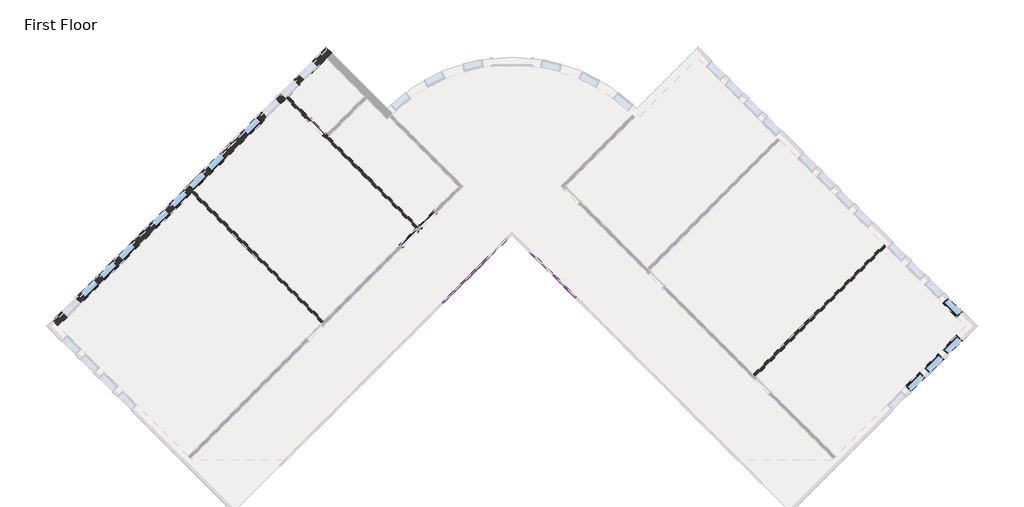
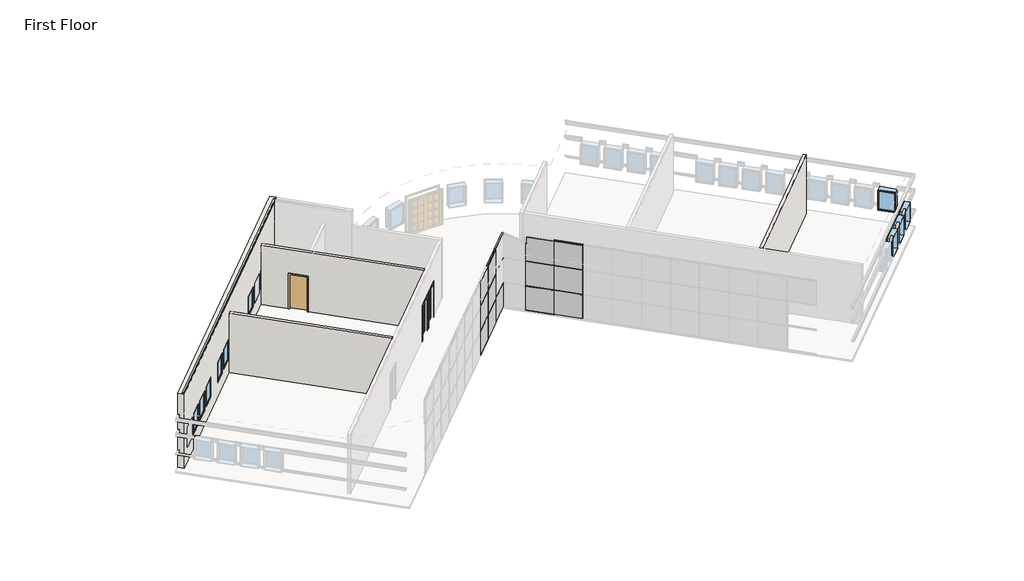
# One storey, part 3 of 5: 21 members, 13 plates, 12 windows, 4 walls, 3 doors.
"""IFC4 building model written with IfcOpenShell, lengths in millimetres."""

from ifc_helpers import new_model, si_unit, origin, origin_with_axes, place, context, project, spatial, polyline, outline, extrude, faceted_brep, transform, mapped, element, save
from components import door_f9494b7c, door_b81abb0e, door_5f5b55da, member_6121af53, member_155beb68, member_f5090587, member_42be4715, member_b8a5b5c0, system_panel_glazed_f8555db4, system_panel_glazed_da345f4e, system_panel_glazed_f1e4c5b0, system_panel_solid_2f1037e2, system_panel_solid_f673cd79, window_15c49d37, window_0e2fc6ce

model = new_model("IFC4")

# Units and contexts
model_context = context("Model", 3, world=origin())
ifc_project = project(units=[si_unit("LENGTHUNIT", "METRE", prefix="MILLI")], contexts=[model_context])

# Site, building, storey
site = spatial("IfcSite", under=ifc_project)
building = spatial("IfcBuilding", under=site)
storey = spatial("IfcBuildingStorey", under=building, Name="First Floor", Elevation=0.0)

# Doors
placement = place(None, origin())
door_shape = door_f9494b7c(model_context)
element("IfcDoor", 1, ObjectType="Single-Flush : 36\" x 84\"", at=placement, inside=storey, context=model_context, shape_type="MappedRepresentation", body=[
    mapped(door_shape, transform((-11920.1265343, 7875.9588464, 0.0), x_axis=(0.7071067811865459, -0.7071067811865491, 0.0), y_axis=(0.7071067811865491, 0.7071067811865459, 0.0), z_axis=(0.0, 0.0, 1.0))),
])
door_2_shape = door_b81abb0e(model_context)
element("IfcDoor", 2, ObjectType="Single-Glass 1 : 36\" x 84\"", at=placement, inside=storey, context=model_context, shape_type="MappedRepresentation", body=[
    mapped(door_2_shape, transform((-7643.2795567, 2737.0072811, 0.0), x_axis=(0.7071067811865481, 0.7071067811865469, 0.0), y_axis=(-0.7071067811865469, 0.7071067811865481, 0.0), z_axis=(0.0, 0.0, 1.0))),
])
door_3_shape = door_5f5b55da(model_context)
element("IfcDoor", 3, ObjectType="Single-Glass 1 : 36\" x 84\"", at=placement, inside=storey, context=model_context, shape_type="MappedRepresentation", body=[
    mapped(door_3_shape, transform((-6781.1749691, 3599.1118687, 0.0), x_axis=(-0.7071067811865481, -0.7071067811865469, 0.0), y_axis=(0.7071067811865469, -0.7071067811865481, 0.0), z_axis=(0.0, 0.0, 1.0))),
])

# Members
member_shape = member_6121af53(model_context)
element("IfcMember", 4, ObjectType="Rectangular Mullion : 1.5\" x 2.5\" Rectangular", at=placement, inside=storey, context=model_context, shape_type="MappedRepresentation", body=[
    mapped(member_shape, transform((-5009.8194492, 810.7423431, 4572.0), x_axis=(0.0, 0.0, 1.0), y_axis=(-0.7071067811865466, 0.7071067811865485, 0.0), z_axis=(-0.7071067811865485, -0.7071067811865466, 0.0))),
])
element("IfcMember", 5, ObjectType="Rectangular Mullion : 1.5\" x 2.5\" Rectangular", at=placement, inside=storey, context=model_context, shape_type="MappedRepresentation", body=[
    mapped(member_shape, transform((-948.4986184, 1033.0036821, 4572.0), x_axis=(0.0, 0.0, 1.0), y_axis=(0.7071067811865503, 0.7071067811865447, 0.0), z_axis=(-0.7071067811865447, 0.7071067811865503, 0.0))),
])
member_2_shape = member_155beb68(model_context)
element("IfcMember", 6, ObjectType="Rectangular Mullion : 1.5\" x 2.5\" Rectangular", at=placement, inside=storey, context=model_context, shape_type="MappedRepresentation", body=[
    mapped(member_2_shape, transform((-3945.6590988, 1874.9026935, 1524.0), x_axis=(-0.7071067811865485, -0.7071067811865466, 0.0), y_axis=(-0.7071067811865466, 0.7071067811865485, 0.0), z_axis=(0.0, 0.0, -1.0))),
])
element("IfcMember", 7, ObjectType="Rectangular Mullion : 1.5\" x 2.5\" Rectangular", at=placement, inside=storey, context=model_context, shape_type="MappedRepresentation", body=[
    mapped(member_2_shape, transform((-5023.2898334, 797.271959, 1524.0), x_axis=(-0.7071067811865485, -0.7071067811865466, 0.0), y_axis=(-0.7071067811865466, 0.7071067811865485, 0.0), z_axis=(0.0, 0.0, -1.0))),
])
element("IfcMember", 8, ObjectType="Rectangular Mullion : 1.5\" x 2.5\" Rectangular", at=placement, inside=storey, context=model_context, shape_type="MappedRepresentation", body=[
    mapped(member_2_shape, transform((-961.9690026, 1046.4740663, 1524.0), x_axis=(-0.7071067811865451, 0.70710678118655, 0.0), y_axis=(0.70710678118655, 0.7071067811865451, 0.0), z_axis=(0.0, 0.0, -1.0))),
])
element("IfcMember", 9, ObjectType="Rectangular Mullion : 1.5\" x 2.5\" Rectangular", at=placement, inside=storey, context=model_context, shape_type="MappedRepresentation", body=[
    mapped(member_2_shape, transform((-3945.6590988, 1874.9026935, 3048.0), x_axis=(-0.7071067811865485, -0.7071067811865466, 0.0), y_axis=(-0.7071067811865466, 0.7071067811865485, 0.0), z_axis=(0.0, 0.0, -1.0))),
])
element("IfcMember", 10, ObjectType="Rectangular Mullion : 1.5\" x 2.5\" Rectangular", at=placement, inside=storey, context=model_context, shape_type="MappedRepresentation", body=[
    mapped(member_2_shape, transform((-5023.2898334, 797.271959, 3048.0), x_axis=(-0.7071067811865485, -0.7071067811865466, 0.0), y_axis=(-0.7071067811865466, 0.7071067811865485, 0.0), z_axis=(0.0, 0.0, -1.0))),
])
element("IfcMember", 11, ObjectType="Rectangular Mullion : 1.5\" x 2.5\" Rectangular", at=placement, inside=storey, context=model_context, shape_type="MappedRepresentation", body=[
    mapped(member_2_shape, transform((-961.9690026, 1046.4740663, 3048.0), x_axis=(-0.7071067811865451, 0.70710678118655, 0.0), y_axis=(0.70710678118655, 0.7071067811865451, 0.0), z_axis=(0.0, 0.0, -1.0))),
])
element("IfcMember", 12, ObjectType="Rectangular Mullion : 1.5\" x 2.5\" Rectangular", at=placement, inside=storey, context=model_context, shape_type="MappedRepresentation", body=[
    mapped(member_2_shape, transform((-3945.6590988, 1874.9026935, 0.0), x_axis=(-0.7071067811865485, -0.7071067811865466, 0.0), y_axis=(-0.7071067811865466, 0.7071067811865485, 0.0), z_axis=(0.0, 0.0, -1.0))),
])
element("IfcMember", 13, ObjectType="Rectangular Mullion : 1.5\" x 2.5\" Rectangular", at=placement, inside=storey, context=model_context, shape_type="MappedRepresentation", body=[
    mapped(member_2_shape, transform((-5023.2898334, 797.271959, 0.0), x_axis=(-0.7071067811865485, -0.7071067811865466, 0.0), y_axis=(-0.7071067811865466, 0.7071067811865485, 0.0), z_axis=(0.0, 0.0, -1.0))),
])
element("IfcMember", 14, ObjectType="Rectangular Mullion : 1.5\" x 2.5\" Rectangular", at=placement, inside=storey, context=model_context, shape_type="MappedRepresentation", body=[
    mapped(member_2_shape, transform((-961.9690026, 1046.4740663, 0.0), x_axis=(-0.7071067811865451, 0.70710678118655, 0.0), y_axis=(0.70710678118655, 0.7071067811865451, 0.0), z_axis=(0.0, 0.0, -1.0))),
])
member_3_shape = member_f5090587(model_context)
element("IfcMember", 15, ObjectType="Rectangular Mullion : 1.5\" x 2.5\" Rectangular", at=placement, inside=storey, context=model_context, shape_type="MappedRepresentation", body=[
    mapped(member_3_shape, transform((-3932.1887147, 1888.3730777, 3048.0), x_axis=(0.0, 0.0, 1.0), y_axis=(-0.7071067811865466, 0.7071067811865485, 0.0), z_axis=(-0.7071067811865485, -0.7071067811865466, 0.0))),
])
element("IfcMember", 16, ObjectType="Rectangular Mullion : 1.5\" x 2.5\" Rectangular", at=placement, inside=storey, context=model_context, shape_type="MappedRepresentation", body=[
    mapped(member_3_shape, transform((-3932.1887147, 1888.3730777, 1524.0), x_axis=(0.0, 0.0, 1.0), y_axis=(-0.7071067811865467, 0.7071067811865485, 0.0), z_axis=(-0.7071067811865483, -0.7071067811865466, 0.0))),
])
member_4_shape = member_42be4715(model_context)
element("IfcMember", 17, ObjectType="Rectangular Mullion : 1.5\" x 2.5\" Rectangular", at=placement, inside=storey, context=model_context, shape_type="MappedRepresentation", body=[
    mapped(member_4_shape, transform((-5009.8194492, 810.7423431, 3048.0), x_axis=(0.0, 0.0, 1.0), y_axis=(-0.7071067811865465, 0.7071067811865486, 0.0), z_axis=(-0.7071067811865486, -0.7071067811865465, 0.0))),
])
element("IfcMember", 18, ObjectType="Rectangular Mullion : 1.5\" x 2.5\" Rectangular", at=placement, inside=storey, context=model_context, shape_type="MappedRepresentation", body=[
    mapped(member_4_shape, transform((-5009.8194492, 810.7423431, 1524.0), x_axis=(0.0, 0.0, 1.0), y_axis=(-0.7071067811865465, 0.7071067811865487, 0.0), z_axis=(-0.7071067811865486, -0.7071067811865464, 0.0))),
])
element("IfcMember", 19, ObjectType="Rectangular Mullion : 1.5\" x 2.5\" Rectangular", at=placement, inside=storey, context=model_context, shape_type="MappedRepresentation", body=[
    mapped(member_4_shape, transform((-948.4986184, 1033.0036821, 3048.0), x_axis=(0.0, 0.0, 1.0), y_axis=(0.7071067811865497, 0.7071067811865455, 0.0), z_axis=(-0.7071067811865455, 0.7071067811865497, 0.0))),
])
element("IfcMember", 20, ObjectType="Rectangular Mullion : 1.5\" x 2.5\" Rectangular", at=placement, inside=storey, context=model_context, shape_type="MappedRepresentation", body=[
    mapped(member_4_shape, transform((-948.4986184, 1033.0036821, 1524.0), x_axis=(0.0, 0.0, 1.0), y_axis=(0.7071067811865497, 0.7071067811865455, 0.0), z_axis=(-0.7071067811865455, 0.7071067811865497, 0.0))),
])
element("IfcMember", 21, ObjectType="Rectangular Mullion : 1.5\" x 2.5\" Rectangular", at=placement, inside=storey, context=model_context, shape_type="MappedRepresentation", body=[
    mapped(member_shape, transform((-3959.129483, 1861.4323093, 0.0), x_axis=(0.0, 0.0, -1.0), y_axis=(-0.7071067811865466, 0.7071067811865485, 0.0), z_axis=(0.7071067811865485, 0.7071067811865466, 0.0))),
])
element("IfcMember", 22, ObjectType="Rectangular Mullion : 1.5\" x 2.5\" Rectangular", at=placement, inside=storey, context=model_context, shape_type="MappedRepresentation", body=[
    mapped(member_shape, transform((-5036.7602175, 783.8015748, 0.0), x_axis=(0.0, 0.0, -1.0), y_axis=(-0.7071067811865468, 0.7071067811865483, 0.0), z_axis=(0.7071067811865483, 0.7071067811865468, 0.0))),
])
element("IfcMember", 23, ObjectType="Rectangular Mullion : 1.5\" x 2.5\" Rectangular", at=placement, inside=storey, context=model_context, shape_type="MappedRepresentation", body=[
    mapped(member_shape, transform((-975.4393868, 1059.9444505, 0.0), x_axis=(0.0, 0.0, -1.0), y_axis=(0.7071067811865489, 0.7071067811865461, 0.0), z_axis=(0.7071067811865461, -0.7071067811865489, 0.0))),
])
member_5_shape = member_b8a5b5c0(model_context)
element("IfcMember", 24, ObjectType="Rectangular Mullion : 1.5\" x 2.5\" Rectangular", at=placement, inside=storey, context=model_context, shape_type="MappedRepresentation", body=[
    mapped(member_5_shape, transform((-3932.1887147, 1888.3730777, 4572.0), x_axis=(0.0, 0.0, 1.0), y_axis=(-0.7071067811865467, 0.7071067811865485, 0.0), z_axis=(-0.7071067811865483, -0.7071067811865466, 0.0))),
])

# Plates
system_panel_glazed_shape = system_panel_glazed_f8555db4(model_context)
element("IfcPlate", 25, ObjectType="System Panel : Glazed", at=placement, inside=storey, context=model_context, shape_type="MappedRepresentation", body=[
    mapped(system_panel_glazed_shape, transform((-3413.5789237, 2406.9828687, 38.1), x_axis=(-0.7071067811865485, -0.7071067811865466, 0.0), y_axis=(0.7071067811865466, -0.7071067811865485, 0.0), z_axis=(0.0, 0.0, 1.0))),
])
system_panel_glazed_2_shape = system_panel_glazed_da345f4e(model_context)
element("IfcPlate", 26, ObjectType="System Panel : Glazed", at=placement, inside=storey, context=model_context, shape_type="MappedRepresentation", body=[
    mapped(system_panel_glazed_2_shape, transform((-423.1536353, 507.6586991, 38.1), x_axis=(-0.7071067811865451, 0.70710678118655, 0.0), y_axis=(-0.70710678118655, -0.7071067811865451, 0.0), z_axis=(0.0, 0.0, 1.0))),
])
element("IfcPlate", 27, ObjectType="System Panel : Glazed", at=placement, inside=storey, context=model_context, shape_type="MappedRepresentation", body=[
    mapped(system_panel_glazed_2_shape, transform((-4484.4744661, 1336.0873262, 38.1), x_axis=(-0.7071067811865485, -0.7071067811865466, 0.0), y_axis=(0.7071067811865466, -0.7071067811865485, 0.0), z_axis=(0.0, 0.0, 1.0))),
])
element("IfcPlate", 28, ObjectType="System Panel : Glazed", at=placement, inside=storey, context=model_context, shape_type="MappedRepresentation", body=[
    mapped(system_panel_glazed_2_shape, transform((-5562.1052006, 258.4565917, 38.1), x_axis=(-0.7071067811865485, -0.7071067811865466, 0.0), y_axis=(0.7071067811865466, -0.7071067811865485, 0.0), z_axis=(0.0, 0.0, 1.0))),
])
element("IfcPlate", 29, ObjectType="System Panel : Glazed", at=placement, inside=storey, context=model_context, shape_type="MappedRepresentation", body=[
    mapped(system_panel_glazed_2_shape, transform((-1500.7843699, 1585.2894336, 38.1), x_axis=(-0.7071067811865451, 0.70710678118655, 0.0), y_axis=(-0.70710678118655, -0.7071067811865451, 0.0), z_axis=(0.0, 0.0, 1.0))),
])
system_panel_glazed_3_shape = system_panel_glazed_f1e4c5b0(model_context)
element("IfcPlate", 30, ObjectType="System Panel : Glazed", at=placement, inside=storey, context=model_context, shape_type="MappedRepresentation", body=[
    mapped(system_panel_glazed_3_shape, transform((-423.1536353, 507.6586991, 1543.05), x_axis=(-0.7071067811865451, 0.70710678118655, 0.0), y_axis=(-0.70710678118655, -0.7071067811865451, 0.0), z_axis=(0.0, 0.0, 1.0))),
])
element("IfcPlate", 31, ObjectType="System Panel : Glazed", at=placement, inside=storey, context=model_context, shape_type="MappedRepresentation", body=[
    mapped(system_panel_glazed_3_shape, transform((-4484.4744661, 1336.0873262, 1543.05), x_axis=(-0.7071067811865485, -0.7071067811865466, 0.0), y_axis=(0.7071067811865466, -0.7071067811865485, 0.0), z_axis=(0.0, 0.0, 1.0))),
])
element("IfcPlate", 32, ObjectType="System Panel : Glazed", at=placement, inside=storey, context=model_context, shape_type="MappedRepresentation", body=[
    mapped(system_panel_glazed_3_shape, transform((-5562.1052006, 258.4565917, 1543.05), x_axis=(-0.7071067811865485, -0.7071067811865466, 0.0), y_axis=(0.7071067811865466, -0.7071067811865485, 0.0), z_axis=(0.0, 0.0, 1.0))),
])
element("IfcPlate", 33, ObjectType="System Panel : Glazed", at=placement, inside=storey, context=model_context, shape_type="MappedRepresentation", body=[
    mapped(system_panel_glazed_3_shape, transform((-1500.7843699, 1585.2894336, 1543.05), x_axis=(-0.7071067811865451, 0.70710678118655, 0.0), y_axis=(-0.70710678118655, -0.7071067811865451, 0.0), z_axis=(0.0, 0.0, 1.0))),
])
system_panel_solid_shape = system_panel_solid_2f1037e2(model_context)
element("IfcPlate", 34, ObjectType="System Panel : Solid", at=placement, inside=storey, context=model_context, shape_type="MappedRepresentation", body=[
    mapped(system_panel_solid_shape, transform((-423.1536353, 507.6586991, 3067.05), x_axis=(-0.7071067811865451, 0.70710678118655, 0.0), y_axis=(-0.70710678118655, -0.7071067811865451, 0.0), z_axis=(0.0, 0.0, 1.0))),
])
element("IfcPlate", 35, ObjectType="System Panel : Solid", at=placement, inside=storey, context=model_context, shape_type="MappedRepresentation", body=[
    mapped(system_panel_solid_shape, transform((-4484.4744661, 1336.0873262, 3067.05), x_axis=(-0.7071067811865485, -0.7071067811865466, 0.0), y_axis=(0.7071067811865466, -0.7071067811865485, 0.0), z_axis=(0.0, 0.0, 1.0))),
])
element("IfcPlate", 36, ObjectType="System Panel : Solid", at=placement, inside=storey, context=model_context, shape_type="MappedRepresentation", body=[
    mapped(system_panel_solid_shape, transform((-5562.1052006, 258.4565917, 3067.05), x_axis=(-0.7071067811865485, -0.7071067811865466, 0.0), y_axis=(0.7071067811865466, -0.7071067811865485, 0.0), z_axis=(0.0, 0.0, 1.0))),
])
system_panel_solid_2_shape = system_panel_solid_f673cd79(model_context)
element("IfcPlate", 37, ObjectType="System Panel : Solid", at=placement, inside=storey, context=model_context, shape_type="MappedRepresentation", body=[
    mapped(system_panel_solid_2_shape, transform((-1500.7843699, 1585.2894336, 3067.05), x_axis=(-0.7071067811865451, 0.70710678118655, 0.0), y_axis=(-0.70710678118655, -0.7071067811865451, 0.0), z_axis=(0.0, 0.0, 1.0))),
])

# Walls
element("IfcWall", 38, ObjectType="Exterior - Split Face and CMU on Mtl. Stud", at=placement, inside=storey, context=model_context, shape_type="Brep", body=[
    faceted_brep([(-23922.2388402, -1357.9895101, 0.0), (-17743.7048466, 4820.5444835, 0.0), (-17633.6967091, 4930.552621, 0.0), (-13359.2125777, 9205.0367523, 0.0), (-13249.2044403, 9315.0448898, 0.0), (-11489.0742405, 11075.1750895, 0.0), (-11239.8721332, 11324.3771969, 0.0), (-11239.8721332, 11324.3771969, 1016.0), (-11304.9789901, 11259.27034, 1016.0), (-11304.9789901, 11259.27034, 1085.85), (-11239.8721332, 11324.3771969, 1085.85), (-11239.8721332, 11324.3771969, 2133.6), (-11304.9789901, 11259.27034, 2133.6), (-11304.9789901, 11259.27034, 2336.8), (-11239.8721332, 11324.3771969, 2336.8), (-11239.8721332, 11324.3771969, 3048.0), (-11304.9789901, 11259.27034, 3048.0), (-11304.9789901, 11259.27034, 3251.2), (-11239.8721332, 11324.3771969, 3251.2), (-11239.8721332, 11324.3771969, 4572.0), (-11489.0742405, 11075.1750895, 4572.0), (-23922.2388402, -1357.9895101, 4572.0), (-23508.0245266, -943.7751965, 914.4), (-23508.0245266, -943.7751965, 2133.6), (-22861.4460859, -297.1967558, 2133.6), (-22861.4460859, -297.1967558, 914.4), (-22645.9199389, -81.6706089, 914.4), (-22645.9199389, -81.6706089, 2133.6), (-21999.3414982, 564.9078318, 2133.6), (-21999.3414982, 564.9078318, 914.4), (-20921.7107637, 1642.5385664, 914.4), (-20921.7107637, 1642.5385664, 2133.6), (-20275.132323, 2289.1170071, 2133.6), (-20275.132323, 2289.1170071, 914.4), (-21783.8153513, 780.4339787, 914.4), (-21783.8153513, 780.4339787, 2133.6), (-21137.2369106, 1427.0124195, 2133.6), (-21137.2369106, 1427.0124195, 914.4), (-11869.3770291, 10694.8723009, 2133.6), (-11869.3770291, 10694.8723009, 914.4), (-12515.9554698, 10048.2938602, 914.4), (-12515.9554698, 10048.2938602, 2133.6), (-12731.4816167, 9832.7677133, 2133.6), (-12731.4816167, 9832.7677133, 914.4), (-13378.0600575, 9186.1892726, 914.4), (-13378.0600575, 9186.1892726, 2133.6), (-13593.5862044, 8970.6631257, 2133.6), (-13593.5862044, 8970.6631257, 914.4), (-14240.1646451, 8324.084685, 914.4), (-14240.1646451, 8324.084685, 2133.6), (-14455.690792, 8108.5585381, 2133.6), (-14455.690792, 8108.5585381, 914.4), (-15102.2692327, 7461.9800974, 914.4), (-15102.2692327, 7461.9800974, 2133.6), (-19359.6176228, 3204.6317073, 914.4), (-19359.6176228, 3204.6317073, 2133.6), (-18713.0391821, 3851.210148, 2133.6), (-18713.0391821, 3851.210148, 914.4), (-18497.5130352, 4066.7362949, 914.4), (-18497.5130352, 4066.7362949, 2133.6), (-17850.9345944, 4713.3147356, 2133.6), (-17850.9345944, 4713.3147356, 914.4), (-17635.4084475, 4928.8408825, 914.4), (-17635.4084475, 4928.8408825, 2133.6), (-16988.8300068, 5575.4193232, 2133.6), (-16988.8300068, 5575.4193232, 914.4), (-16773.3038599, 5790.9454701, 914.4), (-16773.3038599, 5790.9454701, 2133.6), (-16126.7254192, 6437.5239109, 2133.6), (-16126.7254192, 6437.5239109, 914.4), (-11489.0742405, 11573.5793042, 0.0), (-24171.4409475, -1108.7874027, 0.0), (-24171.4409475, -1108.7874027, 1016.0), (-23757.2266339, -694.5730891, 1016.0), (-23757.2266339, -694.5730891, 914.4), (-23110.6481932, -47.9946484, 914.4), (-23110.6481932, -47.9946484, 1016.0), (-22895.1220463, 167.5314985, 1016.0), (-22895.1220463, 167.5314985, 914.4), (-22248.5436056, 814.1099392, 914.4), (-22248.5436056, 814.1099392, 1016.0), (-22033.0174587, 1029.6360861, 1016.0), (-22033.0174587, 1029.6360861, 914.4), (-21386.439018, 1676.2145268, 914.4), (-21386.439018, 1676.2145268, 1016.0), (-21170.9128711, 1891.7406737, 1016.0), (-21170.9128711, 1891.7406737, 914.4), (-20524.3344303, 2538.3191144, 914.4), (-20524.3344303, 2538.3191144, 1016.0), (-19608.8197301, 3453.8338146, 1016.0), (-19608.8197301, 3453.8338146, 914.4), (-18962.2412894, 4100.4122553, 914.4), (-18962.2412894, 4100.4122553, 1016.0), (-18746.7151425, 4315.9384023, 1016.0), (-18746.7151425, 4315.9384023, 914.4), (-18100.1367018, 4962.516843, 914.4), (-18100.1367018, 4962.516843, 1016.0), (-17884.6105549, 5178.0429899, 1016.0), (-17884.6105549, 5178.0429899, 914.4), (-17238.0321142, 5824.6214306, 914.4), (-17238.0321142, 5824.6214306, 1016.0), (-17022.5059673, 6040.1475775, 1016.0), (-17022.5059673, 6040.1475775, 914.4), (-16375.9275266, 6686.7260182, 914.4), (-16375.9275266, 6686.7260182, 1016.0), (-15351.4713401, 7711.1822047, 1016.0), (-15351.4713401, 7711.1822047, 914.4), (-14704.8928993, 8357.7606454, 914.4), (-14704.8928993, 8357.7606454, 1016.0), (-14489.3667524, 8573.2867923, 1016.0), (-14489.3667524, 8573.2867923, 914.4), (-13842.7883117, 9219.8652331, 914.4), (-13842.7883117, 9219.8652331, 1016.0), (-13627.2621648, 9435.39138, 1016.0), (-13627.2621648, 9435.39138, 914.4), (-12980.6837241, 10081.9698207, 914.4), (-12980.6837241, 10081.9698207, 1016.0), (-12765.1575772, 10297.4959676, 1016.0), (-12765.1575772, 10297.4959676, 914.4), (-12118.5791365, 10944.0744083, 914.4), (-12118.5791365, 10944.0744083, 1016.0), (-11489.0742405, 11573.5793042, 1016.0), (-23110.6481932, -47.9946484, 2133.6), (-23757.2266339, -694.5730891, 2133.6), (-23757.2266339, -694.5730891, 2336.8), (-24171.4409475, -1108.7874027, 2336.8), (-24171.4409475, -1108.7874027, 3048.0), (-11489.0742405, 11573.5793042, 3048.0), (-11489.0742405, 11573.5793042, 2336.8), (-12118.5791365, 10944.0744083, 2336.8), (-12118.5791365, 10944.0744083, 2133.6), (-12765.1575772, 10297.4959676, 2133.6), (-12765.1575772, 10297.4959676, 2336.8), (-12980.6837241, 10081.9698207, 2336.8), (-12980.6837241, 10081.9698207, 2133.6), (-13627.2621648, 9435.39138, 2133.6), (-13627.2621648, 9435.39138, 2336.8), (-13842.7883117, 9219.8652331, 2336.8), (-13842.7883117, 9219.8652331, 2133.6), (-14489.3667524, 8573.2867923, 2133.6), (-14489.3667524, 8573.2867923, 2336.8), (-14704.8928993, 8357.7606454, 2336.8), (-14704.8928993, 8357.7606454, 2133.6), (-15351.4713401, 7711.1822047, 2133.6), (-15351.4713401, 7711.1822047, 2336.8), (-16375.9275266, 6686.7260182, 2336.8), (-16375.9275266, 6686.7260182, 2133.6), (-17022.5059673, 6040.1475775, 2133.6), (-17022.5059673, 6040.1475775, 2336.8), (-17238.0321142, 5824.6214306, 2336.8), (-17238.0321142, 5824.6214306, 2133.6), (-17884.6105549, 5178.0429899, 2133.6), (-17884.6105549, 5178.0429899, 2336.8), (-18100.1367018, 4962.516843, 2336.8), (-18100.1367018, 4962.516843, 2133.6), (-18746.7151425, 4315.9384023, 2133.6), (-18746.7151425, 4315.9384023, 2336.8), (-18962.2412894, 4100.4122553, 2336.8), (-18962.2412894, 4100.4122553, 2133.6), (-19608.8197301, 3453.8338146, 2133.6), (-19608.8197301, 3453.8338146, 2336.8), (-20524.3344303, 2538.3191144, 2336.8), (-20524.3344303, 2538.3191144, 2133.6), (-21170.9128711, 1891.7406737, 2133.6), (-21170.9128711, 1891.7406737, 2336.8), (-21386.439018, 1676.2145268, 2336.8), (-21386.439018, 1676.2145268, 2133.6), (-22033.0174587, 1029.6360861, 2133.6), (-22033.0174587, 1029.6360861, 2336.8), (-22248.5436056, 814.1099392, 2336.8), (-22248.5436056, 814.1099392, 2133.6), (-22895.1220463, 167.5314985, 2133.6), (-22895.1220463, 167.5314985, 2336.8), (-23110.6481932, -47.9946484, 2336.8), (-23757.2266339, -694.5730891, 1085.85), (-24171.4409475, -1108.7874027, 1085.85), (-24171.4409475, -1108.7874027, 2133.6), (-23110.6481932, -47.9946484, 1085.85), (-22895.1220463, 167.5314985, 1085.85), (-22248.5436056, 814.1099392, 1085.85), (-22033.0174587, 1029.6360861, 1085.85), (-21170.9128711, 1891.7406737, 1085.85), (-21386.439018, 1676.2145268, 1085.85), (-20524.3344303, 2538.3191144, 1085.85), (-19608.8197301, 3453.8338146, 1085.85), (-12765.1575772, 10297.4959676, 1085.85), (-12980.6837241, 10081.9698207, 1085.85), (-12118.5791365, 10944.0744083, 1085.85), (-11489.0742405, 11573.5793042, 2133.6), (-11489.0742405, 11573.5793042, 1085.85), (-13627.2621648, 9435.39138, 1085.85), (-13842.7883117, 9219.8652331, 1085.85), (-14489.3667524, 8573.2867923, 1085.85), (-14704.8928993, 8357.7606454, 1085.85), (-15351.4713401, 7711.1822047, 1085.85), (-16375.9275266, 6686.7260182, 1085.85), (-18962.2412894, 4100.4122553, 1085.85), (-18746.7151425, 4315.9384023, 1085.85), (-18100.1367018, 4962.516843, 1085.85), (-17884.6105549, 5178.0429899, 1085.85), (-17238.0321142, 5824.6214306, 1085.85), (-17022.5059673, 6040.1475775, 1085.85), (-11489.0742405, 11573.5793042, 4572.0), (-11489.0742405, 11573.5793042, 3251.2), (-24171.4409475, -1108.7874027, 3251.2), (-24171.4409475, -1108.7874027, 4572.0), (-11423.9673837, 11508.4724474, 0.0), (-24106.3340906, -1173.8942596, 0.0), (-24106.3340906, -1173.8942596, 3251.2), (-24106.3340906, -1173.8942596, 3048.0), (-24106.3340906, -1173.8942596, 2336.8), (-24106.3340906, -1173.8942596, 2133.6), (-24106.3340906, -1173.8942596, 1085.85), (-24106.3340906, -1173.8942596, 1016.0), (-23692.119777, -759.679946, 1016.0), (-23692.119777, -759.679946, 1085.85), (-23692.119777, -759.679946, 2133.6), (-23045.5413363, -113.1015053, 2133.6), (-23045.5413363, -113.1015053, 1085.85), (-23045.5413363, -113.1015053, 1016.0), (-22830.0151894, 102.4246416, 1016.0), (-22830.0151894, 102.4246416, 1085.85), (-22830.0151894, 102.4246416, 2133.6), (-22183.4367487, 749.0030823, 2133.6), (-22183.4367487, 749.0030823, 1085.85), (-22183.4367487, 749.0030823, 1016.0), (-21105.8060142, 1826.6338168, 1016.0), (-21105.8060142, 1826.6338168, 1085.85), (-21105.8060142, 1826.6338168, 2133.6), (-20459.2275735, 2473.2122576, 2133.6), (-20459.2275735, 2473.2122576, 1085.85), (-20459.2275735, 2473.2122576, 1016.0), (-21967.9106018, 964.5292292, 1016.0), (-21967.9106018, 964.5292292, 1085.85), (-21967.9106018, 964.5292292, 2133.6), (-21321.3321611, 1611.1076699, 2133.6), (-21321.3321611, 1611.1076699, 1085.85), (-21321.3321611, 1611.1076699, 1016.0), (-12053.4722796, 10878.9675514, 2133.6), (-12053.4722796, 10878.9675514, 1085.85), (-12053.4722796, 10878.9675514, 1016.0), (-12700.0507203, 10232.3891107, 1016.0), (-12700.0507203, 10232.3891107, 1085.85), (-12700.0507203, 10232.3891107, 2133.6), (-12915.5768672, 10016.8629638, 2133.6), (-12915.5768672, 10016.8629638, 1085.85), (-12915.5768672, 10016.8629638, 1016.0), (-13562.1553079, 9370.2845231, 1016.0), (-13562.1553079, 9370.2845231, 1085.85), (-13562.1553079, 9370.2845231, 2133.6), (-13777.6814548, 9154.7583762, 2133.6), (-13777.6814548, 9154.7583762, 1085.85), (-13777.6814548, 9154.7583762, 1016.0), (-14424.2598956, 8508.1799355, 1016.0), (-14424.2598956, 8508.1799355, 1085.85), (-14424.2598956, 8508.1799355, 2133.6), (-14639.7860425, 8292.6537886, 2133.6), (-14639.7860425, 8292.6537886, 1085.85), (-14639.7860425, 8292.6537886, 1016.0), (-15286.3644832, 7646.0753478, 1016.0), (-15286.3644832, 7646.0753478, 1085.85), (-15286.3644832, 7646.0753478, 2133.6), (-19543.7128733, 3388.7269578, 1016.0), (-19543.7128733, 3388.7269578, 1085.85), (-19543.7128733, 3388.7269578, 2133.6), (-18897.1344326, 4035.3053985, 2133.6), (-18897.1344326, 4035.3053985, 1085.85), (-18897.1344326, 4035.3053985, 1016.0), (-18681.6082856, 4250.8315454, 1016.0), (-18681.6082856, 4250.8315454, 1085.85), (-18681.6082856, 4250.8315454, 2133.6), (-18035.0298449, 4897.4099861, 2133.6), (-18035.0298449, 4897.4099861, 1085.85), (-18035.0298449, 4897.4099861, 1016.0), (-17819.503698, 5112.936133, 1016.0), (-17819.503698, 5112.936133, 1085.85), (-17819.503698, 5112.936133, 2133.6), (-17172.9252573, 5759.5145737, 2133.6), (-17172.9252573, 5759.5145737, 1085.85), (-17172.9252573, 5759.5145737, 1016.0), (-16957.3991104, 5975.0407206, 1016.0), (-16957.3991104, 5975.0407206, 1085.85), (-16957.3991104, 5975.0407206, 2133.6), (-16310.8206697, 6621.6191613, 2133.6), (-16310.8206697, 6621.6191613, 1085.85), (-16310.8206697, 6621.6191613, 1016.0), (-11489.0742405, 11443.3655905, 1085.85), (-11489.0742405, 11443.3655905, 1016.0), (-23692.119777, -759.679946, 2133.6), (-23692.119777, -759.679946, 2336.8), (-23045.5413363, -113.1015053, 2133.6), (-23045.5413363, -113.1015053, 2336.8), (-22830.0151894, 102.4246416, 2336.8), (-22830.0151894, 102.4246416, 2133.6), (-22183.4367487, 749.0030823, 2133.6), (-22183.4367487, 749.0030823, 2336.8), (-21967.9106018, 964.5292292, 2336.8), (-21967.9106018, 964.5292292, 2133.6), (-21321.3321611, 1611.1076699, 2133.6), (-21321.3321611, 1611.1076699, 2336.8), (-21105.8060142, 1826.6338168, 2336.8), (-21105.8060142, 1826.6338168, 2133.6), (-20459.2275735, 2473.2122576, 2133.6), (-20459.2275735, 2473.2122576, 2336.8), (-19543.7128733, 3388.7269578, 2336.8), (-19543.7128733, 3388.7269578, 2133.6), (-18897.1344326, 4035.3053985, 2133.6), (-18897.1344326, 4035.3053985, 2336.8), (-18681.6082856, 4250.8315454, 2336.8), (-18681.6082856, 4250.8315454, 2133.6), (-18035.0298449, 4897.4099861, 2133.6), (-18035.0298449, 4897.4099861, 2336.8), (-17819.503698, 5112.936133, 2336.8), (-17819.503698, 5112.936133, 2133.6), (-17172.9252573, 5759.5145737, 2133.6), (-17172.9252573, 5759.5145737, 2336.8), (-16957.3991104, 5975.0407206, 2336.8), (-16957.3991104, 5975.0407206, 2133.6), (-16310.8206697, 6621.6191613, 2133.6), (-16310.8206697, 6621.6191613, 2336.8), (-15286.3644832, 7646.0753478, 2336.8), (-15286.3644832, 7646.0753478, 2133.6), (-14639.7860425, 8292.6537886, 2133.6), (-14639.7860425, 8292.6537886, 2336.8), (-14424.2598956, 8508.1799355, 2336.8), (-14424.2598956, 8508.1799355, 2133.6), (-13777.6814548, 9154.7583762, 2133.6), (-13777.6814548, 9154.7583762, 2336.8), (-13562.1553079, 9370.2845231, 2336.8), (-13562.1553079, 9370.2845231, 2133.6), (-12915.5768672, 10016.8629638, 2133.6), (-12915.5768672, 10016.8629638, 2336.8), (-12700.0507203, 10232.3891107, 2336.8), (-12700.0507203, 10232.3891107, 2133.6), (-12053.4722796, 10878.9675514, 2133.6), (-12053.4722796, 10878.9675514, 2336.8), (-11489.0742405, 11443.3655905, 2133.6), (-11489.0742405, 11443.3655905, 2336.8), (-11489.0742405, 11443.3655905, 3048.0), (-11489.0742405, 11443.3655905, 3251.2)], [[[0, 1, 2, 3, 4, 5, 6, 7, 8, 9, 10, 11, 12, 13, 14, 15, 16, 17, 18, 19, 20, 21], [22, 23, 24, 25], [26, 27, 28, 29], [30, 31, 32, 33], [34, 35, 36, 37], [38, 39, 40, 41], [42, 43, 44, 45], [46, 47, 48, 49], [50, 51, 52, 53], [54, 55, 56, 57], [58, 59, 60, 61], [62, 63, 64, 65], [66, 67, 68, 69]], [[70, 71, 72, 73, 74, 75, 76, 77, 78, 79, 80, 81, 82, 83, 84, 85, 86, 87, 88, 89, 90, 91, 92, 93, 94, 95, 96, 97, 98, 99, 100, 101, 102, 103, 104, 105, 106, 107, 108, 109, 110, 111, 112, 113, 114, 115, 116, 117, 118, 119, 120, 121]], [[122, 123, 124, 125, 126, 127, 128, 129, 130, 131, 132, 133, 134, 135, 136, 137, 138, 139, 140, 141, 142, 143, 144, 145, 146, 147, 148, 149, 150, 151, 152, 153, 154, 155, 156, 157, 158, 159, 160, 161, 162, 163, 164, 165, 166, 167, 168, 169, 170, 171, 172, 173]], [[123, 174, 175, 176]], [[177, 122, 171, 178]], [[179, 170, 167, 180]], [[163, 181, 182, 166]], [[183, 162, 159, 184]], [[131, 185, 186, 134]], [[187, 130, 188, 189]], [[135, 190, 191, 138]], [[139, 192, 193, 142]], [[143, 194, 195, 146]], [[196, 158, 155, 197]], [[198, 154, 151, 199]], [[200, 150, 147, 201]], [[202, 203, 204, 205]], [[6, 206, 70, 121, 7]], [[10, 189, 188, 11]], [[14, 128, 127, 15]], [[19, 18, 203, 202]], [[207, 0, 21, 205, 204, 208, 209, 126, 125, 210, 211, 176, 175, 212, 213, 72, 71]], [[6, 5, 4, 3, 2, 1, 0, 207, 206]], [[207, 71, 70, 206]], [[23, 22, 74, 73, 214, 215, 174, 123, 216]], [[75, 74, 22, 25]], [[25, 24, 217, 122, 177, 218, 219, 76, 75]], [[123, 122, 217, 24, 23, 216]], [[27, 26, 78, 77, 220, 221, 178, 171, 222]], [[79, 78, 26, 29]], [[29, 28, 223, 170, 179, 224, 225, 80, 79]], [[171, 170, 223, 28, 27, 222]], [[31, 30, 86, 85, 226, 227, 181, 163, 228]], [[87, 86, 30, 33]], [[33, 32, 229, 162, 183, 230, 231, 88, 87]], [[163, 162, 229, 32, 31, 228]], [[35, 34, 82, 81, 232, 233, 180, 167, 234]], [[83, 82, 34, 37]], [[37, 36, 235, 166, 182, 236, 237, 84, 83]], [[167, 166, 235, 36, 35, 234]], [[39, 38, 238, 130, 187, 239, 240, 120, 119]], [[40, 39, 119, 118]], [[41, 40, 118, 117, 241, 242, 185, 131, 243]], [[38, 41, 243, 131, 130, 238]], [[43, 42, 244, 134, 186, 245, 246, 116, 115]], [[44, 43, 115, 114]], [[45, 44, 114, 113, 247, 248, 190, 135, 249]], [[42, 45, 249, 135, 134, 244]], [[47, 46, 250, 138, 191, 251, 252, 112, 111]], [[48, 47, 111, 110]], [[49, 48, 110, 109, 253, 254, 192, 139, 255]], [[46, 49, 255, 139, 138, 250]], [[51, 50, 256, 142, 193, 257, 258, 108, 107]], [[52, 51, 107, 106]], [[53, 52, 106, 105, 259, 260, 194, 143, 261]], [[50, 53, 261, 143, 142, 256]], [[55, 54, 90, 89, 262, 263, 184, 159, 264]], [[91, 90, 54, 57]], [[57, 56, 265, 158, 196, 266, 267, 92, 91]], [[159, 158, 265, 56, 55, 264]], [[59, 58, 94, 93, 268, 269, 197, 155, 270]], [[95, 94, 58, 61]], [[61, 60, 271, 154, 198, 272, 273, 96, 95]], [[155, 154, 271, 60, 59, 270]], [[63, 62, 98, 97, 274, 275, 199, 151, 276]], [[99, 98, 62, 65]], [[65, 64, 277, 150, 200, 278, 279, 100, 99]], [[151, 150, 277, 64, 63, 276]], [[67, 66, 102, 101, 280, 281, 201, 147, 282]], [[103, 102, 66, 69]], [[69, 68, 283, 146, 195, 284, 285, 104, 103]], [[147, 146, 283, 68, 67, 282]], [[215, 212, 175, 174]], [[213, 214, 73, 72]], [[212, 215, 214, 213]], [[221, 218, 177, 178]], [[219, 220, 77, 76]], [[218, 221, 220, 219]], [[233, 224, 179, 180]], [[225, 232, 81, 80]], [[224, 233, 232, 225]], [[227, 236, 182, 181]], [[237, 226, 85, 84]], [[236, 227, 226, 237]], [[263, 230, 183, 184]], [[231, 262, 89, 88]], [[230, 263, 262, 231]], [[269, 266, 196, 197]], [[267, 268, 93, 92]], [[266, 269, 268, 267]], [[275, 272, 198, 199]], [[273, 274, 97, 96]], [[272, 275, 274, 273]], [[281, 278, 200, 201]], [[279, 280, 101, 100]], [[278, 281, 280, 279]], [[260, 284, 195, 194]], [[285, 259, 105, 104]], [[284, 260, 259, 285]], [[254, 257, 193, 192]], [[258, 253, 109, 108]], [[257, 254, 253, 258]], [[248, 251, 191, 190]], [[252, 247, 113, 112]], [[251, 248, 247, 252]], [[242, 245, 186, 185]], [[246, 241, 117, 116]], [[245, 242, 241, 246]], [[286, 239, 187, 189, 10, 9]], [[240, 287, 8, 7, 121, 120]], [[239, 286, 287, 240]], [[287, 286, 9, 8]], [[288, 123, 176, 211]], [[124, 289, 210, 125]], [[123, 288, 289, 124]], [[289, 288, 211, 210]], [[290, 122, 173, 291]], [[292, 172, 171, 293]], [[122, 290, 293, 171]], [[290, 291, 292, 293]], [[291, 173, 172, 292]], [[294, 170, 169, 295]], [[296, 168, 167, 297]], [[170, 294, 297, 167]], [[294, 295, 296, 297]], [[295, 169, 168, 296]], [[298, 166, 165, 299]], [[300, 164, 163, 301]], [[166, 298, 301, 163]], [[298, 299, 300, 301]], [[299, 165, 164, 300]], [[302, 162, 161, 303]], [[304, 160, 159, 305]], [[162, 302, 305, 159]], [[302, 303, 304, 305]], [[303, 161, 160, 304]], [[306, 158, 157, 307]], [[308, 156, 155, 309]], [[158, 306, 309, 155]], [[306, 307, 308, 309]], [[307, 157, 156, 308]], [[310, 154, 153, 311]], [[312, 152, 151, 313]], [[154, 310, 313, 151]], [[310, 311, 312, 313]], [[311, 153, 152, 312]], [[314, 150, 149, 315]], [[316, 148, 147, 317]], [[150, 314, 317, 147]], [[314, 315, 316, 317]], [[315, 149, 148, 316]], [[318, 146, 145, 319]], [[320, 144, 143, 321]], [[146, 318, 321, 143]], [[318, 319, 320, 321]], [[319, 145, 144, 320]], [[322, 142, 141, 323]], [[324, 140, 139, 325]], [[142, 322, 325, 139]], [[322, 323, 324, 325]], [[323, 141, 140, 324]], [[326, 138, 137, 327]], [[328, 136, 135, 329]], [[138, 326, 329, 135]], [[326, 327, 328, 329]], [[327, 137, 136, 328]], [[330, 134, 133, 331]], [[332, 132, 131, 333]], [[134, 330, 333, 131]], [[330, 331, 332, 333]], [[331, 133, 132, 332]], [[334, 130, 129, 335]], [[130, 334, 336, 12, 11, 188]], [[334, 335, 337, 336]], [[335, 129, 128, 14, 13, 337]], [[336, 337, 13, 12]], [[209, 338, 16, 15, 127, 126]], [[17, 339, 208, 204, 203, 18]], [[339, 338, 209, 208]], [[338, 339, 17, 16]], [[21, 20, 19, 202, 205]]]),
    faceted_brep([(-11489.0742405, 11075.1750895, 4689.475), (-23922.2388402, -1357.9895101, 4689.475), (-23922.2388402, -1357.9895101, 4639.3965909), (-11489.0742405, 11075.1750895, 4639.3965909), (-11413.683542, 11150.5657881, 4653.9354839), (-23997.6295387, -1282.5988115, 4653.9354839), (-11489.0742405, 11225.9564867, 4653.9354839)], [[[0, 1, 2, 3, 4]], [[2, 1, 5]], [[1, 0, 6, 5]], [[0, 4, 6]], [[6, 3, 2, 5]], [[3, 6, 4]]]),
])
element("IfcWall", 39, ObjectType="Interior - 6 1/8\" Partition (2-hr)", at=placement, inside=storey, context=model_context, shape_type="Brep", body=[
    faceted_brep([(-7212.2272629, 3278.0677124, 0.0), (-11379.066103, 7444.9065526, 0.0), (-11489.0742405, 7554.9146901, 0.0), (-11541.8332452, 7607.6736948, 0.0), (-11541.8332452, 7607.6736948, 2133.6), (-12188.411686, 8254.2521355, 2133.6), (-12188.411686, 8254.2521355, 0.0), (-13249.2044403, 9315.0448898, 0.0), (-13249.2044403, 9315.0448898, 3657.6), (-11489.0742405, 7554.9146901, 3657.6), (-11379.066103, 7444.9065526, 3657.6), (-7212.2272629, 3278.0677124, 3657.6), (-11651.8413827, 7497.6655573, 2133.6), (-11651.8413827, 7497.6655573, 0.0), (-7322.2354004, 3168.0595749, 0.0), (-7322.2354004, 3168.0595749, 3657.6), (-13359.2125777, 9205.0367523, 3657.6), (-13359.2125777, 9205.0367523, 0.0), (-12298.4198234, 8144.243998, 0.0), (-12298.4198234, 8144.243998, 2133.6)], [[[0, 1, 2, 3, 4, 5, 6, 7, 8, 9, 10, 11]], [[12, 13, 14, 15, 16, 17, 18, 19]], [[14, 13, 3, 2, 1, 0]], [[18, 17, 7, 6]], [[11, 10, 9, 8, 16, 15]], [[8, 7, 17, 16]], [[0, 11, 15, 14]], [[4, 3, 13, 12]], [[5, 4, 12, 19]], [[6, 5, 19, 18]]]),
])
element("IfcWall", 40, ObjectType="Interior - 6 1/8\" Partition (2-hr)", at=placement, inside=storey, context=model_context, shape_type="SweptSolid", body=[
    extrude(outline(polyline([(-17633.6967091, 4930.552621), (-11596.7195317, -1106.4245564), (-11706.7276692, -1216.4326939), (-17743.7048466, 4820.5444835), (-17633.6967091, 4930.552621)])), origin_with_axes(), (0.0, 0.0, 1.0), 3657.6),
])
element("IfcWall", 41, ObjectType="Interior - 6 1/8\" Partition (2-hr)", at=placement, inside=storey, context=model_context, shape_type="SweptSolid", body=[
    extrude(outline(polyline([(8339.3312748, -3585.0930281), (14376.3084522, 2451.8841493), (14486.3165897, 2341.8760118), (8449.3394123, -3695.1011656), (8339.3312748, -3585.0930281)])), origin_with_axes(), (0.0, 0.0, 1.0), 3657.6),
])

# Windows
window_shape = window_15c49d37(model_context)
element("IfcWindow", 42, ObjectType="Fixed : 36\" x 48\"", at=placement, inside=storey, context=model_context, shape_type="MappedRepresentation", body=[
    mapped(window_shape, transform((-22474.1725406, 339.2788968, 0.0), x_axis=(-0.7071067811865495, -0.7071067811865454, 0.0), y_axis=(0.7071067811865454, -0.7071067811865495, 0.0), z_axis=(0.0, 0.0, 1.0))),
])
element("IfcWindow", 43, ObjectType="Fixed : 36\" x 48\"", at=placement, inside=storey, context=model_context, shape_type="MappedRepresentation", body=[
    mapped(window_shape, transform((-21612.067953, 1201.3834844, 0.0), x_axis=(-0.7071067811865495, -0.7071067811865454, 0.0), y_axis=(0.7071067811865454, -0.7071067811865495, 0.0), z_axis=(0.0, 0.0, 1.0))),
])
element("IfcWindow", 44, ObjectType="Fixed : 36\" x 48\"", at=placement, inside=storey, context=model_context, shape_type="MappedRepresentation", body=[
    mapped(window_shape, transform((-20749.9633654, 2063.488072, 0.0), x_axis=(-0.7071067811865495, -0.7071067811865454, 0.0), y_axis=(0.7071067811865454, -0.7071067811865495, 0.0), z_axis=(0.0, 0.0, 1.0))),
])
element("IfcWindow", 45, ObjectType="Fixed : 36\" x 48\"", at=placement, inside=storey, context=model_context, shape_type="MappedRepresentation", body=[
    mapped(window_shape, transform((-19187.8702245, 3625.5812129, 0.0), x_axis=(-0.7071067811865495, -0.7071067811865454, 0.0), y_axis=(0.7071067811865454, -0.7071067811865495, 0.0), z_axis=(0.0, 0.0, 1.0))),
])
element("IfcWindow", 46, ObjectType="Fixed : 36\" x 48\"", at=placement, inside=storey, context=model_context, shape_type="MappedRepresentation", body=[
    mapped(window_shape, transform((-18325.7656368, 4487.6858006, 0.0), x_axis=(-0.7071067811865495, -0.7071067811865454, 0.0), y_axis=(0.7071067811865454, -0.7071067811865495, 0.0), z_axis=(0.0, 0.0, 1.0))),
])
element("IfcWindow", 47, ObjectType="Fixed : 36\" x 48\"", at=placement, inside=storey, context=model_context, shape_type="MappedRepresentation", body=[
    mapped(window_shape, transform((-17463.6610492, 5349.7903882, 0.0), x_axis=(-0.7071067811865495, -0.7071067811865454, 0.0), y_axis=(0.7071067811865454, -0.7071067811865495, 0.0), z_axis=(0.0, 0.0, 1.0))),
])
element("IfcWindow", 48, ObjectType="Fixed : 36\" x 48\"", at=placement, inside=storey, context=model_context, shape_type="MappedRepresentation", body=[
    mapped(window_shape, transform((-16601.5564616, 6211.8949758, 0.0), x_axis=(-0.7071067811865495, -0.7071067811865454, 0.0), y_axis=(0.7071067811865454, -0.7071067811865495, 0.0), z_axis=(0.0, 0.0, 1.0))),
])
element("IfcWindow", 49, ObjectType="Fixed : 36\" x 48\"", at=placement, inside=storey, context=model_context, shape_type="MappedRepresentation", body=[
    mapped(window_shape, transform((17600.2203996, -2193.1533294, 0.0), x_axis=(0.7071067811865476, 0.7071067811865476, 0.0), y_axis=(-0.7071067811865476, 0.7071067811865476, 0.0), z_axis=(0.0, 0.0, 1.0))),
])
element("IfcWindow", 50, ObjectType="Fixed : 36\" x 48\"", at=placement, inside=storey, context=model_context, shape_type="MappedRepresentation", body=[
    mapped(window_shape, transform((16738.115812, -3055.257917, 0.0), x_axis=(0.7071067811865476, 0.7071067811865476, 0.0), y_axis=(-0.7071067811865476, 0.7071067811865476, 0.0), z_axis=(0.0, 0.0, 1.0))),
])
element("IfcWindow", 51, ObjectType="Fixed : 36\" x 48\"", at=placement, inside=storey, context=model_context, shape_type="MappedRepresentation", body=[
    mapped(window_shape, transform((15876.0112244, -3917.3625046, 0.0), x_axis=(0.7071067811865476, 0.7071067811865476, 0.0), y_axis=(-0.7071067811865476, 0.7071067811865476, 0.0), z_axis=(0.0, 0.0, 1.0))),
])
window_2_shape = window_0e2fc6ce(model_context)
element("IfcWindow", 52, ObjectType="Fixed : 36\" x 48\"", at=placement, inside=storey, context=model_context, shape_type="MappedRepresentation", body=[
    mapped(window_2_shape, transform((-14876.6402977, 7936.8111398, 0.0), x_axis=(0.7071067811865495, 0.7071067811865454, 0.0), y_axis=(-0.7071067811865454, 0.7071067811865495, 0.0), z_axis=(0.0, 0.0, 1.0))),
])
element("IfcWindow", 53, ObjectType="Fixed : 36\" x 48\"", at=placement, inside=storey, context=model_context, shape_type="MappedRepresentation", body=[
    mapped(window_2_shape, transform((17600.2203996, -522.8256908, 0.0), x_axis=(0.7071067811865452, -0.7071067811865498, 0.0), y_axis=(0.7071067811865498, 0.7071067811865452, 0.0), z_axis=(0.0, 0.0, 1.0))),
])

save(model, "model.ifc")
